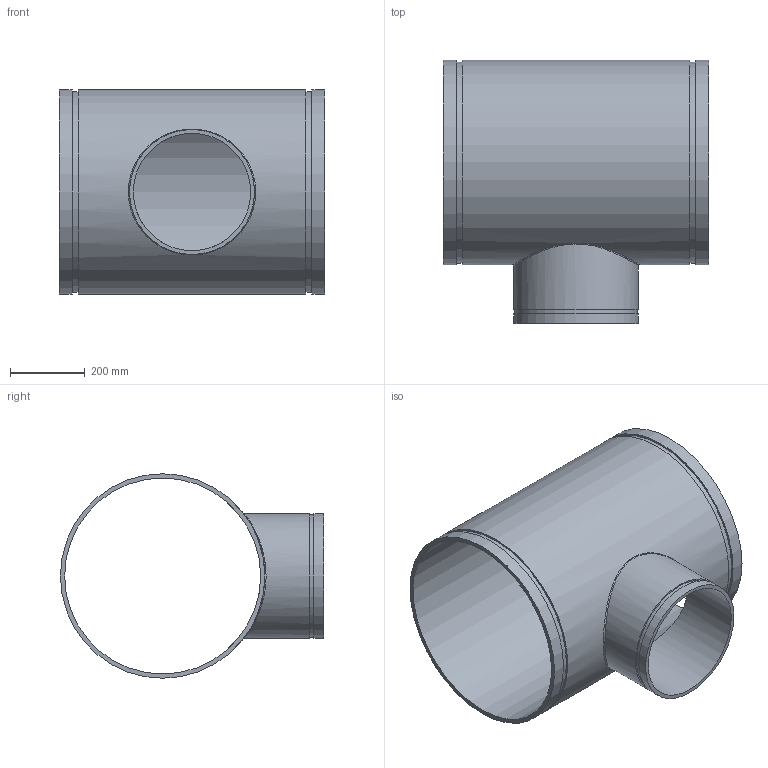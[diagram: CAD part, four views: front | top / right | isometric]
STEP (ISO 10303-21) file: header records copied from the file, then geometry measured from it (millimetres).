
FILE_DESCRIPTION(/* description */ ('VIC REDUCING TEE No 25-C','CAx-IF Rec.Pracs.---Representation and Presentation of Product Manufacturing Information (PMI)---4.0---2014-10-13'),/* implementation_level */ '2;1');
FILE_NAME(/* name */ 'C:\Users\Vjadhav\AppData\Roaming\Autodesk\ApplicationPlugins\Back Up\Victaulic_AWWA_Tee Reducing_No 25-C (DRG)\Victaulic_AWWA_Tee Reducing_No 25-C (DRG)_20.0x12.0 (500x300).stp',/* time_stamp */ '2020-08-18T18:18:41+06:00',/* author */ ('CORINNE GRAY'),/* organization */ ('Victaulic'),/* preprocessor_version */ 'ST-DEVELOPER v17.2',/* originating_system */ 'Autodesk Inventor 2019',/* authorisation */ '');
FILE_SCHEMA (('AP242_MANAGED_MODEL_BASED_3D_ENGINEERING_MIM_LF { 1 0 10303 442 1 1 4 }'));
Length unit declared in the file: inch
Products named in the file (1): 25C-20.0x12.0
Bounding box: 711.2 x 706.12 x 548.64 mm (x, y, z)
Volume: 14378457.1 mm3; surface area: 2700703.3 mm2
Topology: 1 solids, 1 shells, 20 faces, 44 edges, 33 vertices
Faces by surface type: cylinder 10, plane 9, bspline 1
Full cylindrical faces by diameter (mm): 314.96 x1, 327.812 x1, 335.28 x2, 525.78 x1, 538.963 x2, 548.64 x3
Entity records: 1089 total; most frequent: CARTESIAN_POINT 465, DIRECTION 135, ORIENTED_EDGE 90, AXIS2_PLACEMENT_3D 62, EDGE_CURVE 45, VERTEX_POINT 34, EDGE_LOOP 31, CIRCLE 29
